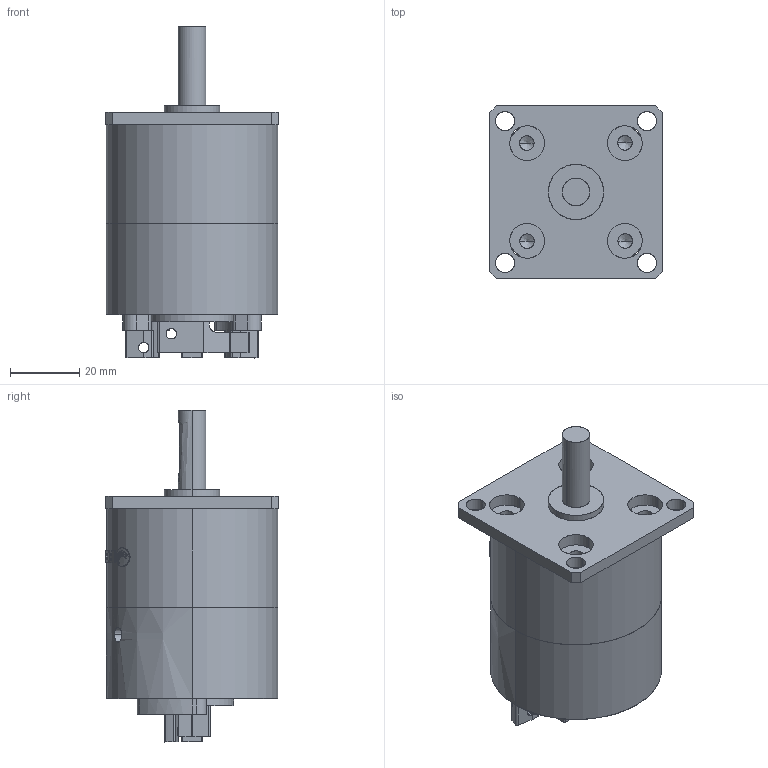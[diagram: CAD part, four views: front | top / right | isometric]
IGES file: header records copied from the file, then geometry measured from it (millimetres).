
Start section: SolidWorks IGES file using analytic representation for surfaces
Global section: file name: C:\Users\Chieh_Lu\Dropbox\¤u§@«Ç\PRO\PROA20S\PROA20S-#-#\PROA20S-#-#-P.IGS; native system: SolidWorks 2014; preprocessor: SolidWorks 2014; author: Chieh_Lu; date: 150731.094604; units: millimetre
Bounding box: 50 x 50.03 x 96 mm (x, y, z)
Surface area: 32268 mm2 (no closed solid volume)
Topology: 0 solids, 0 shells, 389 faces, 5955 edges, 5935 vertices
Faces by surface type: revolution 208, bspline 181
